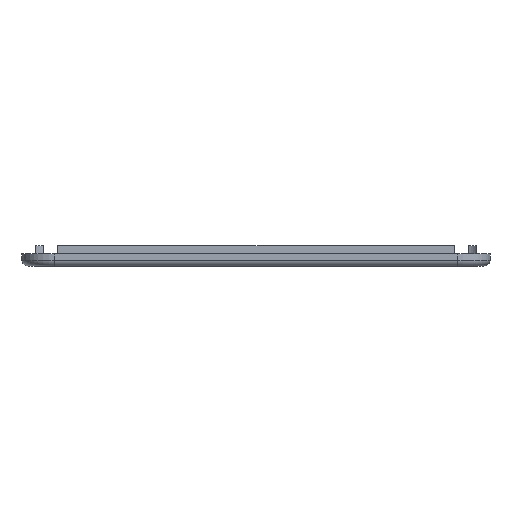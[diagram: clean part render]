
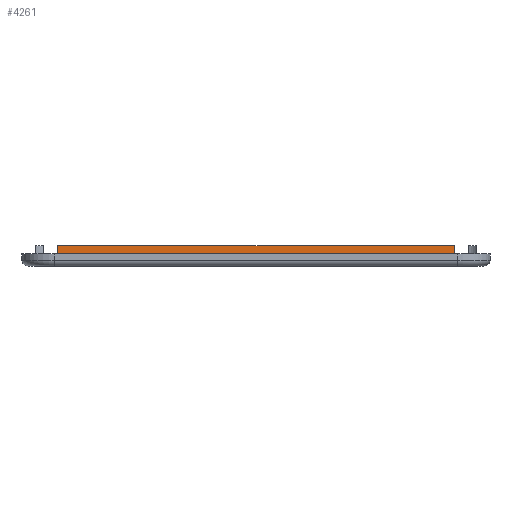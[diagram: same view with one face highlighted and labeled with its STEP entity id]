
A CAD part, left-side view. The second image highlights one B-rep face of the part: STEP entity #4261.
In plain terms, the highlighted planar face has unit normal (-1, 0, 0).
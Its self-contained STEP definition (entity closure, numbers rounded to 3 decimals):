
#90 = PLANE('',#91);
#91 = AXIS2_PLACEMENT_3D('',#92,#93,#94);
#92 = CARTESIAN_POINT('',(0.,0.,3.));
#93 = DIRECTION('',(0.,0.,1.));
#94 = DIRECTION('',(1.,0.,-0.));
#1422 = VERTEX_POINT('',#1423);
#1423 = CARTESIAN_POINT('',(-91.7,-49.139,3.));
#1438 = CYLINDRICAL_SURFACE('',#1439,4.);
#1439 = AXIS2_PLACEMENT_3D('',#1440,#1441,#1442);
#1440 = CARTESIAN_POINT('',(-88.4,-51.4,2.));
#1441 = DIRECTION('',(0.,0.,1.));
#1442 = DIRECTION('',(1.,0.,-0.));
#1450 = EDGE_CURVE('',#1422,#1451,#1453,.T.);
#1451 = VERTEX_POINT('',#1452);
#1452 = CARTESIAN_POINT('',(-91.7,49.139,3.));
#1453 = SURFACE_CURVE('',#1454,(#1458,#1465),.PCURVE_S1.);
#1454 = LINE('',#1455,#1456);
#1455 = CARTESIAN_POINT('',(-91.7,0.,3.));
#1456 = VECTOR('',#1457,1.);
#1457 = DIRECTION('',(0.,1.,0.));
#1458 = PCURVE('',#90,#1459);
#1459 = DEFINITIONAL_REPRESENTATION('',(#1460),#1464);
#1460 = LINE('',#1461,#1462);
#1461 = CARTESIAN_POINT('',(-91.7,0.));
#1462 = VECTOR('',#1463,1.);
#1463 = DIRECTION('',(0.,1.));
#1464 = ( GEOMETRIC_REPRESENTATION_CONTEXT(2) 
PARAMETRIC_REPRESENTATION_CONTEXT() REPRESENTATION_CONTEXT('2D SPACE',''
  ) );
#1465 = PCURVE('',#1466,#1471);
#1466 = PLANE('',#1467);
#1467 = AXIS2_PLACEMENT_3D('',#1468,#1469,#1470);
#1468 = CARTESIAN_POINT('',(-91.7,-50.,3.));
#1469 = DIRECTION('',(-1.,0.,0.));
#1470 = DIRECTION('',(0.,1.,0.));
#1471 = DEFINITIONAL_REPRESENTATION('',(#1472),#1476);
#1472 = LINE('',#1473,#1474);
#1473 = CARTESIAN_POINT('',(50.,0.));
#1474 = VECTOR('',#1475,1.);
#1475 = DIRECTION('',(1.,0.));
#1476 = ( GEOMETRIC_REPRESENTATION_CONTEXT(2) 
PARAMETRIC_REPRESENTATION_CONTEXT() REPRESENTATION_CONTEXT('2D SPACE',''
  ) );
#1495 = CYLINDRICAL_SURFACE('',#1496,4.);
#1496 = AXIS2_PLACEMENT_3D('',#1497,#1498,#1499);
#1497 = CARTESIAN_POINT('',(-88.4,51.4,2.));
#1498 = DIRECTION('',(0.,0.,1.));
#1499 = DIRECTION('',(1.,0.,-0.));
#4148 = EDGE_CURVE('',#1422,#4149,#4151,.T.);
#4149 = VERTEX_POINT('',#4150);
#4150 = CARTESIAN_POINT('',(-91.7,-49.139,5.));
#4151 = SURFACE_CURVE('',#4152,(#4156,#4162),.PCURVE_S1.);
#4152 = LINE('',#4153,#4154);
#4153 = CARTESIAN_POINT('',(-91.7,-49.139,2.));
#4154 = VECTOR('',#4155,1.);
#4155 = DIRECTION('',(0.,0.,1.));
#4156 = PCURVE('',#1438,#4157);
#4157 = DEFINITIONAL_REPRESENTATION('',(#4158),#4161);
#4158 = B_SPLINE_CURVE_WITH_KNOTS('',1,(#4159,#4160),.UNSPECIFIED.,.F.,
  .F.,(2,2),(0.8,3.2),.PIECEWISE_BEZIER_KNOTS.);
#4159 = CARTESIAN_POINT('',(8.824,0.8));
#4160 = CARTESIAN_POINT('',(8.824,3.2));
#4161 = ( GEOMETRIC_REPRESENTATION_CONTEXT(2) 
PARAMETRIC_REPRESENTATION_CONTEXT() REPRESENTATION_CONTEXT('2D SPACE',''
  ) );
#4162 = PCURVE('',#1466,#4163);
#4163 = DEFINITIONAL_REPRESENTATION('',(#4164),#4167);
#4164 = B_SPLINE_CURVE_WITH_KNOTS('',1,(#4165,#4166),.UNSPECIFIED.,.F.,
  .F.,(2,2),(0.8,3.2),.PIECEWISE_BEZIER_KNOTS.);
#4165 = CARTESIAN_POINT('',(0.861,0.2));
#4166 = CARTESIAN_POINT('',(0.861,-2.2));
#4167 = ( GEOMETRIC_REPRESENTATION_CONTEXT(2) 
PARAMETRIC_REPRESENTATION_CONTEXT() REPRESENTATION_CONTEXT('2D SPACE',''
  ) );
#4186 = PLANE('',#4187);
#4187 = AXIS2_PLACEMENT_3D('',#4188,#4189,#4190);
#4188 = CARTESIAN_POINT('',(0.,0.,5.));
#4189 = DIRECTION('',(0.,0.,1.));
#4190 = DIRECTION('',(1.,0.,-0.));
#4261 = ADVANCED_FACE('',(#4262),#1466,.T.);
#4262 = FACE_BOUND('',#4263,.T.);
#4263 = EDGE_LOOP('',(#4264,#4265,#4266,#4289));
#4264 = ORIENTED_EDGE('',*,*,#1450,.F.);
#4265 = ORIENTED_EDGE('',*,*,#4148,.T.);
#4266 = ORIENTED_EDGE('',*,*,#4267,.T.);
#4267 = EDGE_CURVE('',#4149,#4268,#4270,.T.);
#4268 = VERTEX_POINT('',#4269);
#4269 = CARTESIAN_POINT('',(-91.7,49.139,5.));
#4270 = SURFACE_CURVE('',#4271,(#4275,#4282),.PCURVE_S1.);
#4271 = LINE('',#4272,#4273);
#4272 = CARTESIAN_POINT('',(-91.7,0.,5.));
#4273 = VECTOR('',#4274,1.);
#4274 = DIRECTION('',(0.,1.,0.));
#4275 = PCURVE('',#1466,#4276);
#4276 = DEFINITIONAL_REPRESENTATION('',(#4277),#4281);
#4277 = LINE('',#4278,#4279);
#4278 = CARTESIAN_POINT('',(50.,-2.));
#4279 = VECTOR('',#4280,1.);
#4280 = DIRECTION('',(1.,0.));
#4281 = ( GEOMETRIC_REPRESENTATION_CONTEXT(2) 
PARAMETRIC_REPRESENTATION_CONTEXT() REPRESENTATION_CONTEXT('2D SPACE',''
  ) );
#4282 = PCURVE('',#4186,#4283);
#4283 = DEFINITIONAL_REPRESENTATION('',(#4284),#4288);
#4284 = LINE('',#4285,#4286);
#4285 = CARTESIAN_POINT('',(-91.7,0.));
#4286 = VECTOR('',#4287,1.);
#4287 = DIRECTION('',(0.,1.));
#4288 = ( GEOMETRIC_REPRESENTATION_CONTEXT(2) 
PARAMETRIC_REPRESENTATION_CONTEXT() REPRESENTATION_CONTEXT('2D SPACE',''
  ) );
#4289 = ORIENTED_EDGE('',*,*,#4290,.F.);
#4290 = EDGE_CURVE('',#1451,#4268,#4291,.T.);
#4291 = SURFACE_CURVE('',#4292,(#4296,#4302),.PCURVE_S1.);
#4292 = LINE('',#4293,#4294);
#4293 = CARTESIAN_POINT('',(-91.7,49.139,2.));
#4294 = VECTOR('',#4295,1.);
#4295 = DIRECTION('',(0.,0.,1.));
#4296 = PCURVE('',#1466,#4297);
#4297 = DEFINITIONAL_REPRESENTATION('',(#4298),#4301);
#4298 = B_SPLINE_CURVE_WITH_KNOTS('',1,(#4299,#4300),.UNSPECIFIED.,.F.,
  .F.,(2,2),(0.8,3.2),.PIECEWISE_BEZIER_KNOTS.);
#4299 = CARTESIAN_POINT('',(99.139,0.2));
#4300 = CARTESIAN_POINT('',(99.139,-2.2));
#4301 = ( GEOMETRIC_REPRESENTATION_CONTEXT(2) 
PARAMETRIC_REPRESENTATION_CONTEXT() REPRESENTATION_CONTEXT('2D SPACE',''
  ) );
#4302 = PCURVE('',#1495,#4303);
#4303 = DEFINITIONAL_REPRESENTATION('',(#4304),#4307);
#4304 = B_SPLINE_CURVE_WITH_KNOTS('',1,(#4305,#4306),.UNSPECIFIED.,.F.,
  .F.,(2,2),(0.8,3.2),.PIECEWISE_BEZIER_KNOTS.);
#4305 = CARTESIAN_POINT('',(3.742,0.8));
#4306 = CARTESIAN_POINT('',(3.742,3.2));
#4307 = ( GEOMETRIC_REPRESENTATION_CONTEXT(2) 
PARAMETRIC_REPRESENTATION_CONTEXT() REPRESENTATION_CONTEXT('2D SPACE',''
  ) );
